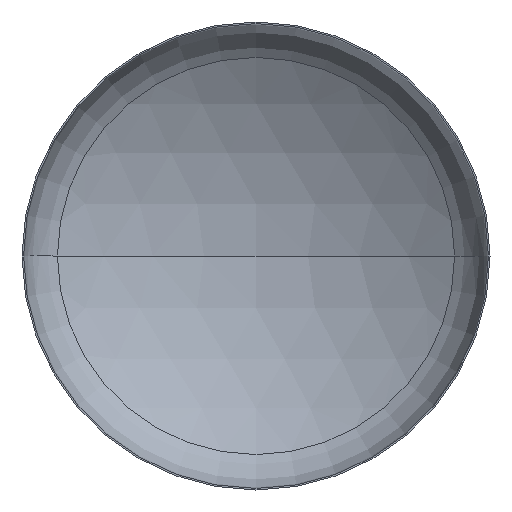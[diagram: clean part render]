
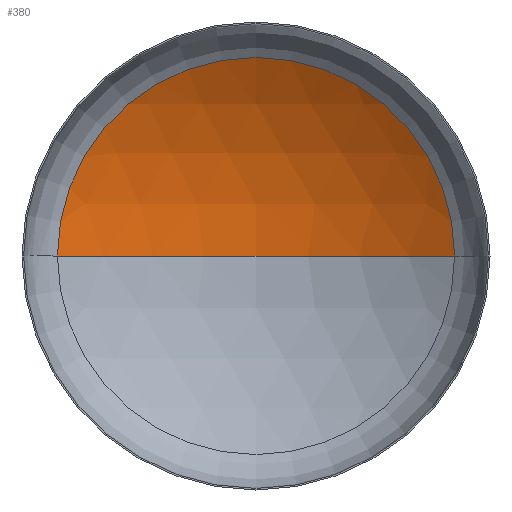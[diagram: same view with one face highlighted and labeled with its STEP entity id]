
A CAD part, front view. The second image highlights one B-rep face of the part: STEP entity #380.
In plain terms, the highlighted spherical face has radius 2880 mm.
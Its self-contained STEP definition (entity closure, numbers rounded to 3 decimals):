
#7 = AXIS2_PLACEMENT_3D ( 'NONE', #82, #87, #67 ) ;
#53 = ORIENTED_EDGE ( 'NONE', *, *, #377, .T. ) ;
#67 = DIRECTION ( 'NONE',  ( 1., 0., 0. ) ) ;
#72 = VERTEX_POINT ( 'NONE', #319 ) ;
#82 = CARTESIAN_POINT ( 'NONE',  ( 0., 510.527, 0. ) ) ;
#87 = DIRECTION ( 'NONE',  ( 0., -1., 0. ) ) ;
#127 = CARTESIAN_POINT ( 'NONE',  ( 0., -1931.126, 0. ) ) ;
#131 = VERTEX_POINT ( 'NONE', #292 ) ;
#145 = VERTEX_POINT ( 'NONE', #283 ) ;
#162 = DIRECTION ( 'NONE',  ( 1., 0., 0. ) ) ;
#166 = DIRECTION ( 'NONE',  ( -1., 0., 0. ) ) ;
#180 = SPHERICAL_SURFACE ( 'NONE', #272, 2880. ) ;
#203 = CARTESIAN_POINT ( 'NONE',  ( 0., -1931.126, 0. ) ) ;
#207 = ORIENTED_EDGE ( 'NONE', *, *, #352, .T. ) ;
#218 = EDGE_LOOP ( 'NONE', ( #261, #53, #207 ) ) ;
#229 = CARTESIAN_POINT ( 'NONE',  ( 0., -1931.126, 0. ) ) ;
#243 = AXIS2_PLACEMENT_3D ( 'NONE', #229, #341, #166 ) ;
#258 = AXIS2_PLACEMENT_3D ( 'NONE', #127, #339, #162 ) ;
#259 = FACE_OUTER_BOUND ( 'NONE', #218, .T. ) ;
#261 = ORIENTED_EDGE ( 'NONE', *, *, #391, .F. ) ;
#272 = AXIS2_PLACEMENT_3D ( 'NONE', #203, #407, #366 ) ;
#283 = CARTESIAN_POINT ( 'NONE',  ( 1527.329, 510.527, 0. ) ) ;
#292 = CARTESIAN_POINT ( 'NONE',  ( 0., 948.874, 0. ) ) ;
#319 = CARTESIAN_POINT ( 'NONE',  ( -1527.329, 510.527, 0. ) ) ;
#331 = CIRCLE ( 'NONE', #243, 2880. ) ;
#339 = DIRECTION ( 'NONE',  ( 0., 0., 1. ) ) ;
#341 = DIRECTION ( 'NONE',  ( 0., 0., -1. ) ) ;
#343 = CIRCLE ( 'NONE', #7, 1527.329 ) ;
#352 = EDGE_CURVE ( 'NONE', #145, #72, #343, .T. ) ;
#366 = DIRECTION ( 'NONE',  ( -1., 0., 0. ) ) ;
#377 = EDGE_CURVE ( 'NONE', #131, #145, #331, .T. ) ;
#380 = ADVANCED_FACE ( 'NONE', ( #259 ), #180, .F. ) ;
#387 = CIRCLE ( 'NONE', #258, 2880. ) ;
#391 = EDGE_CURVE ( 'NONE', #131, #72, #387, .T. ) ;
#407 = DIRECTION ( 'NONE',  ( 0., 0., -1. ) ) ;
